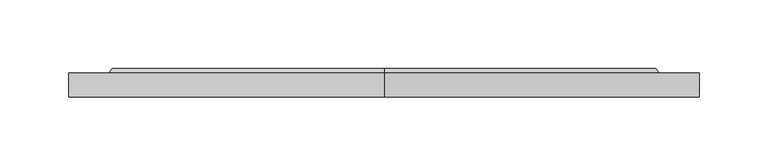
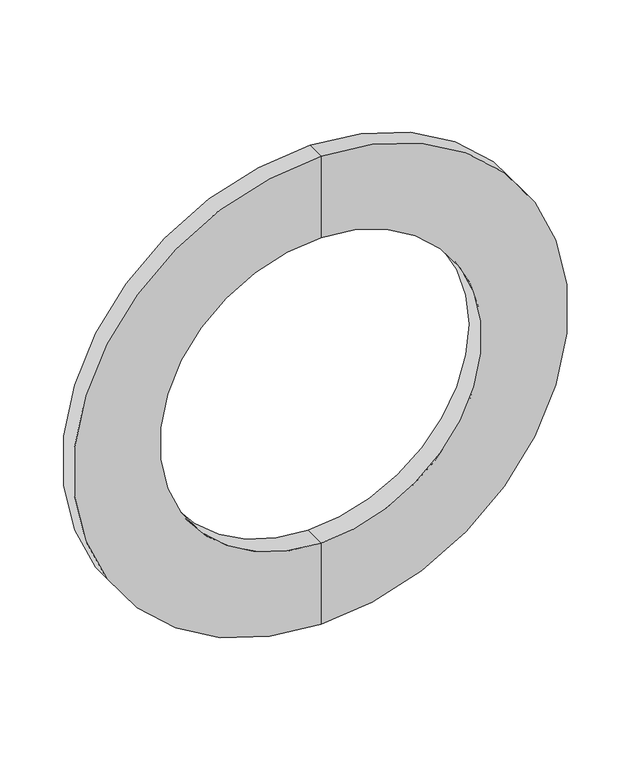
"""IFC4 building model written with IfcOpenShell, lengths in millimetres: pipe fitting geometry, Фланец : Фланец."""

from ifc_helpers import new_model, si_unit, frame, origin, place, context, project, spatial, polyline, circle_curve, source, transform, mapped, element, save
from ifc_brep_helpers import plane_surface, cylinder_surface, revolved_surface, advanced_brep


def pipe_fitting_f0c44933(model_context):
    return source(origin(), model_context, "Body", "AdvancedBrep", [
        advanced_brep(
        [(0.0, 0.0, -230.0), (0.0, 0.0, 230.0), (0.0, 17.7, 230.0), (0.0, 17.7, -230.0), (0.0, 0.0, -150.0), (0.0, 0.0, 150.0), (0.0, 20.7, -150.0), (0.0, 20.7, 150.0), (0.0, 20.7, -198.5), (0.0, 20.7, 198.5), (0.0, 17.7, -201.0), (0.0, 17.7, 201.0)],
        [
            (0, 1, circle_curve(frame((0.0, 0.0, 0.0), z_axis=(0.0, 1.0, 0.0), x_axis=(0.0, 0.0, 1.0)), 230.0)),
            (1, 2),
            (2, 3, circle_curve(frame((0.0, 17.7, 0.0), z_axis=(0.0, -1.0, 0.0), x_axis=(0.0, 0.0, 1.0)), 230.0)),
            (3, 0),
            (1, 0, circle_curve(frame((0.0, 0.0, 0.0), z_axis=(0.0, 1.0, 0.0), x_axis=(0.0, 0.0, 1.0)), 230.0)),
            (3, 2, circle_curve(frame((0.0, 17.7, 0.0), z_axis=(0.0, -1.0, 0.0), x_axis=(0.0, 0.0, 1.0)), 230.0)),
            (4, 5, circle_curve(frame((0.0, 0.0, 0.0), z_axis=(0.0, 1.0, 0.0), x_axis=(0.0, 0.0, 1.0)), 150.0)),
            (5, 1),
            (0, 4),
            (5, 4, circle_curve(frame((0.0, 0.0, 0.0), z_axis=(0.0, 1.0, 0.0), x_axis=(0.0, 0.0, 1.0)), 150.0)),
            (6, 7, circle_curve(frame((0.0, 20.7, 0.0), z_axis=(0.0, 1.0, 0.0), x_axis=(0.0, 0.0, 1.0)), 150.0)),
            (7, 5),
            (4, 6),
            (7, 6, circle_curve(frame((0.0, 20.7, 0.0), z_axis=(0.0, 1.0, 0.0), x_axis=(0.0, 0.0, 1.0)), 150.0)),
            (8, 9, circle_curve(frame((0.0, 20.7, 0.0), z_axis=(0.0, 1.0, 0.0), x_axis=(0.0, 0.0, 1.0)), 198.5)),
            (9, 7),
            (6, 8),
            (9, 8, circle_curve(frame((0.0, 20.7, 0.0), z_axis=(0.0, 1.0, 0.0), x_axis=(0.0, 0.0, 1.0)), 198.5)),
            (10, 11, circle_curve(frame((0.0, 17.7, 0.0), z_axis=(0.0, 1.0, 0.0), x_axis=(0.0, 0.0, 1.0)), 201.0)),
            (11, 9),
            (8, 10),
            (11, 10, circle_curve(frame((0.0, 17.7, 0.0), z_axis=(0.0, 1.0, 0.0), x_axis=(0.0, 0.0, 1.0)), 201.0)),
            (2, 11),
            (10, 3),
        ],
        [
            cylinder_surface(frame((0.0, -60.0, 0.0), z_axis=(0.0, -1.0, 0.0), x_axis=(0.0, 0.0, 1.0)), 230.0),
            plane_surface(frame((0.0, 0.0, 0.0), z_axis=(0.0, -1.0, 0.0), x_axis=(0.0, 0.0, 1.0))),
            revolved_surface(polyline([(0.0, 0.0, 150.0), (0.0, 20.700000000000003, 150.0)]), (0.0, -60.0, 0.0), (0.0, -1.0, 0.0)),
            plane_surface(frame((0.0, 20.7, 0.0), z_axis=(0.0, 1.0, 0.0), x_axis=(0.0, 0.0, 1.0))),
            revolved_surface(polyline([(0.0, 20.7, 198.5), (0.0, 17.7, 201.0)]), (0.0, -60.0, 0.0), (0.0, -1.0, 0.0)),
            plane_surface(frame((0.0, 17.7, 0.0), z_axis=(0.0, 1.0, 0.0), x_axis=(0.0, 0.0, 1.0))),
        ],
        [
            (0, [[1, 2, 3, 4]]),
            (0, [[5, -4, 6, -2]]),
            (1, [[7, 8, -1, 9]]),
            (1, [[10, -9, -5, -8]]),
            (2, [[11, 12, -7, 13]]),
            (2, [[14, -13, -10, -12]]),
            (3, [[15, 16, -11, 17]]),
            (3, [[18, -17, -14, -16]]),
            (4, [[19, 20, -15, 21]]),
            (4, [[22, -21, -18, -20]]),
            (5, [[-3, 23, -19, 24]]),
            (5, [[-6, -24, -22, -23]]),
        ],
    ),
    ])


if __name__ == "__main__":
    model = new_model("IFC4")
    model_context = context("Model", 3, world=origin())
    ifc_project = project(units=[si_unit("LENGTHUNIT", "METRE", prefix="MILLI")], contexts=[model_context])
    site = spatial("IfcSite", under=ifc_project)
    building = spatial("IfcBuilding", under=site)
    placement = place(None, origin())
    pipe_fitting_shape = pipe_fitting_f0c44933(model_context)
    element("IfcPipeFitting", 1, ObjectType="Фланец : Фланец", at=placement, inside=building, context=model_context, shape_type="MappedRepresentation", body=[
        mapped(pipe_fitting_shape, transform((0.0, 0.0, 0.0), x_axis=(1.0, 0.0, 0.0), y_axis=(0.0, 1.0, 0.0), z_axis=(0.0, 0.0, 1.0))),
    ])
    save(model, "model.ifc")
